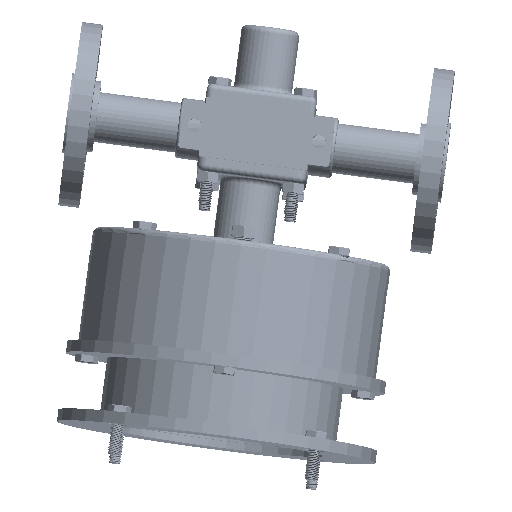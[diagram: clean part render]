
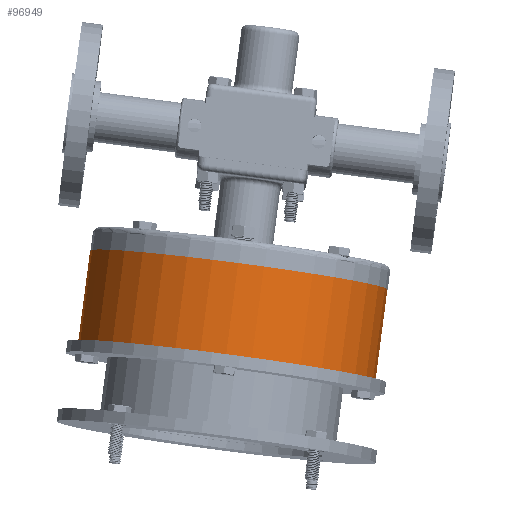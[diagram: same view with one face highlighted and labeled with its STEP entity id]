
A CAD part, front view. The second image highlights one B-rep face of the part: STEP entity #96949.
In plain terms, the highlighted cylindrical face has radius 79.756 mm (diameter 159.512 mm), a partial arc.
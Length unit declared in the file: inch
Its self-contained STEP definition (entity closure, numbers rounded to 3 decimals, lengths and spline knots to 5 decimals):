
#533 = ORIENTED_EDGE ( 'NONE', *, *, #6116, .F. ) ;
#2612 = VECTOR ( 'NONE', #141907, 39.37008 ) ;
#3314 = EDGE_CURVE ( 'NONE', #7541, #204441, #22057, .T. ) ;
#6116 = EDGE_CURVE ( 'NONE', #61011, #7541, #43818, .T. ) ;
#7541 = VERTEX_POINT ( 'NONE', #168980 ) ;
#22057 = LINE ( 'NONE', #125229, #2612 ) ;
#31029 = CARTESIAN_POINT ( 'NONE',  ( 8.49457, 93.92335, 15.22819 ) ) ;
#41883 = DIRECTION ( 'NONE',  ( 0.13, 0.046, 0.99 ) ) ;
#43818 = CIRCLE ( 'NONE', #199766, 3.14 ) ;
#53100 = EDGE_CURVE ( 'NONE', #61011, #63874, #139526, .T. ) ;
#57276 = CARTESIAN_POINT ( 'NONE',  ( 5.38115, 93.95506, 15.63464 ) ) ;
#61011 = VERTEX_POINT ( 'NONE', #76111 ) ;
#63874 = VERTEX_POINT ( 'NONE', #111394 ) ;
#65738 = EDGE_CURVE ( 'NONE', #63874, #204441, #117380, .T. ) ;
#76111 = CARTESIAN_POINT ( 'NONE',  ( 5.38115, 93.95506, 15.63464 ) ) ;
#82574 = VECTOR ( 'NONE', #208296, 39.37008 ) ;
#85524 = AXIS2_PLACEMENT_3D ( 'NONE', #90689, #41883, #140736 ) ;
#90689 = CARTESIAN_POINT ( 'NONE',  ( 8.24319, 93.83394, 13.30965 ) ) ;
#92501 = CARTESIAN_POINT ( 'NONE',  ( 11.35661, 93.80223, 12.90319 ) ) ;
#96482 = FACE_OUTER_BOUND ( 'NONE', #182866, .T. ) ;
#96949 = ADVANCED_FACE ( 'NONE', ( #96482 ), #134216, .T. ) ;
#111394 = CARTESIAN_POINT ( 'NONE',  ( 5.12977, 93.86565, 13.71611 ) ) ;
#117380 = CIRCLE ( 'NONE', #85524, 3.14 ) ;
#117512 = DIRECTION ( 'NONE',  ( -0.13, -0.046, -0.99 ) ) ;
#125229 = CARTESIAN_POINT ( 'NONE',  ( 11.60799, 93.89164, 14.82173 ) ) ;
#134216 = CYLINDRICAL_SURFACE ( 'NONE', #213110, 3.14 ) ;
#135013 = CARTESIAN_POINT ( 'NONE',  ( 8.49457, 93.92335, 15.22819 ) ) ;
#139526 = LINE ( 'NONE', #57276, #82574 ) ;
#140736 = DIRECTION ( 'NONE',  ( 0.992, -0.01, -0.129 ) ) ;
#141907 = DIRECTION ( 'NONE',  ( -0.13, -0.046, -0.99 ) ) ;
#148857 = ORIENTED_EDGE ( 'NONE', *, *, #3314, .F. ) ;
#151540 = ORIENTED_EDGE ( 'NONE', *, *, #65738, .T. ) ;
#168980 = CARTESIAN_POINT ( 'NONE',  ( 11.60799, 93.89164, 14.82173 ) ) ;
#178872 = ORIENTED_EDGE ( 'NONE', *, *, #53100, .T. ) ;
#182866 = EDGE_LOOP ( 'NONE', ( #148857, #533, #178872, #151540 ) ) ;
#199766 = AXIS2_PLACEMENT_3D ( 'NONE', #135013, #204897, #202707 ) ;
#202707 = DIRECTION ( 'NONE',  ( 0.992, -0.01, -0.129 ) ) ;
#204441 = VERTEX_POINT ( 'NONE', #92501 ) ;
#204897 = DIRECTION ( 'NONE',  ( 0.13, 0.046, 0.99 ) ) ;
#208296 = DIRECTION ( 'NONE',  ( -0.13, -0.046, -0.99 ) ) ;
#213110 = AXIS2_PLACEMENT_3D ( 'NONE', #31029, #117512, #218564 ) ;
#218564 = DIRECTION ( 'NONE',  ( -0.992, 0.01, 0.129 ) ) ;
